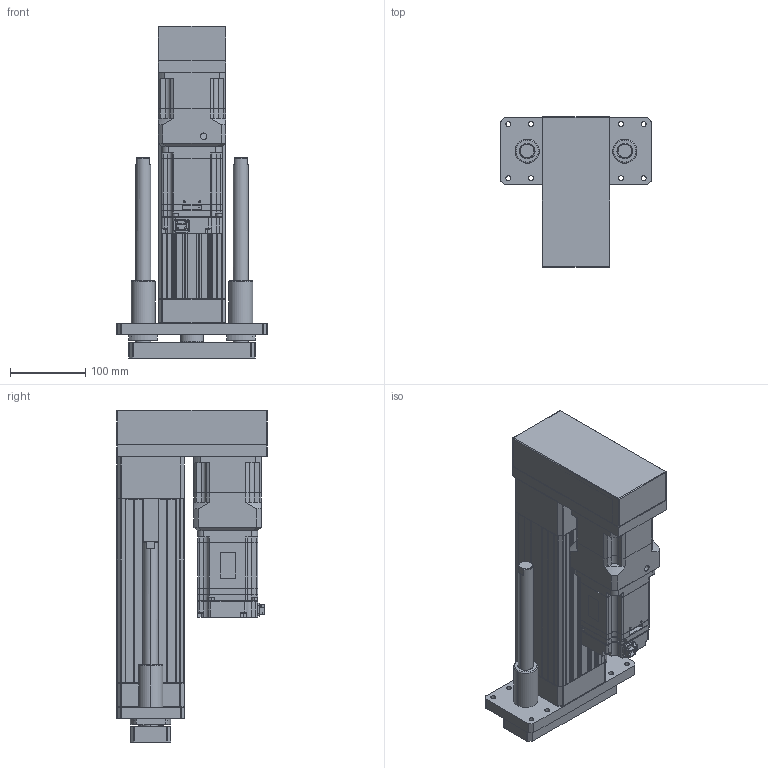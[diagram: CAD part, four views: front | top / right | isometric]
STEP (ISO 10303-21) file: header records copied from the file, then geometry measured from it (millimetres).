
FILE_DESCRIPTION (( 'STEP AP203' ), '1' );
FILE_NAME ('ANS090H-GP100-05(10)(25)-W75G05.STEP', '2019-03-18T02:21:05', ( 'user' ), ( '' ), 'SwSTEP 2.0', 'SolidWorks 2013', '' );
FILE_SCHEMA (( 'CONFIG_CONTROL_DESIGN' ));
Length unit declared in the file: millimetre
Products named in the file (5): AB090-005-S1-P2[YASKAWA SGMJV08A]; ANS090H GP100 VER2; ANS090 ROD ST100-G; SGMJV_08A_A21; ANS090H-GP100-05(10)(25)-W75G05
Assembly tree (4 placements, depth 2):
  ANS090H-GP100-05(10)(25)-W75G05
    ANS090H GP100 VER2
    ANS090 ROD ST100-G
    SGMJV_08A_A21
    AB090-005-S1-P2[YASKAWA SGMJV08A]
Bounding box: 200 x 200 x 442 mm (x, y, z)
Volume: 3227454.7 mm3; surface area: 643043.2 mm2
Topology: 3 solids, 14 shells, 1545 faces, 4030 edges, 2588 vertices
Faces by surface type: plane 828, cylinder 529, cone 164, bspline 12, sphere 8, torus 4
Entity records: 48188 total; most frequent: CARTESIAN_POINT 9040, DIRECTION 8191, ORIENTED_EDGE 7932, EDGE_CURVE 4010, AXIS2_PLACEMENT_3D 2779, VECTOR 2633, LINE 2633, VERTEX_POINT 2588
